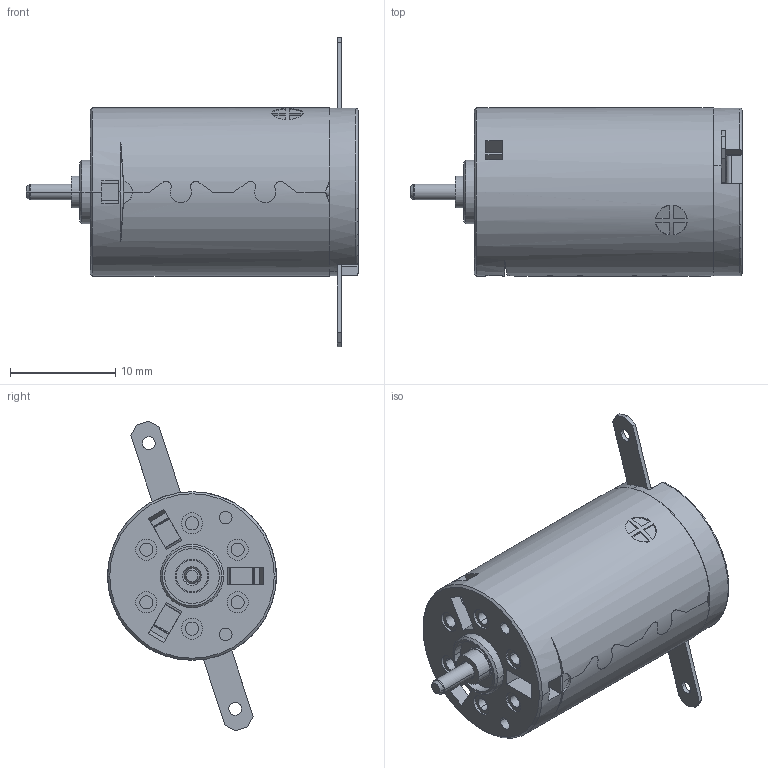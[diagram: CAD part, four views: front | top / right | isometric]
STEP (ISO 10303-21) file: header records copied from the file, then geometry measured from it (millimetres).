
FILE_DESCRIPTION((''),'2;1');
FILE_NAME('110061_AMAX16_GB_2W_SL_1WE','2016-10-14T',('mmagvisi'),(''),'CREO PARAMETRIC BY PTC INC, 2016050','CREO PARAMETRIC BY PTC INC, 2016050','');
FILE_SCHEMA(('CONFIG_CONTROL_DESIGN'));
Length unit declared in the file: millimetre
Products named in the file (1): 110061_AMAX16_GB_2W_SL_1WE
Bounding box: 31.5 x 16 x 29.38 mm (x, y, z)
Volume: 5008.5 mm3; surface area: 2383 mm2
Topology: 1 solids, 4 shells, 371 faces, 1095 edges, 715 vertices
Faces by surface type: plane 206, cylinder 127, cone 26, torus 8, bspline 4
Entity records: 16811 total; most frequent: CARTESIAN_POINT 3215, ORIENTED_EDGE 2190, DIRECTION 2139, PRESENTATION_STYLE_ASSIGNMENT 1096, STYLED_ITEM 1096, CURVE_STYLE 1095, EDGE_CURVE 1095, AXIS2_PLACEMENT_3D 769
